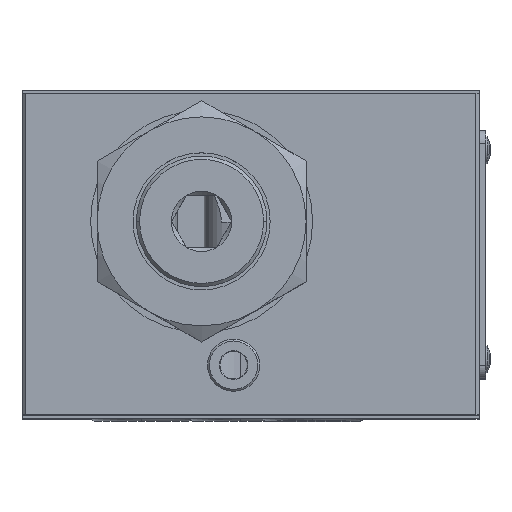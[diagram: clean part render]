
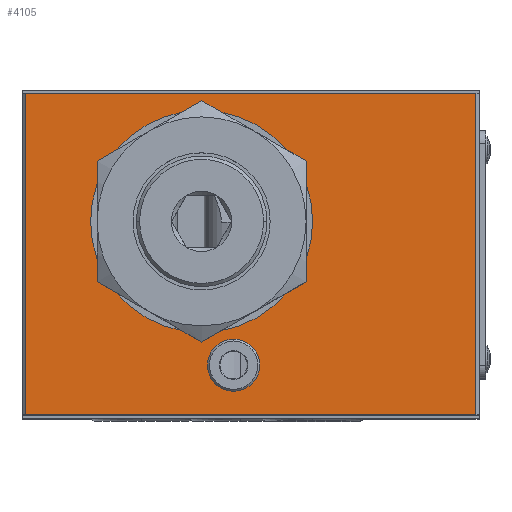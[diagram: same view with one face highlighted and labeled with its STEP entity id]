
A CAD part, top view. The second image highlights one B-rep face of the part: STEP entity #4105.
In plain terms, the highlighted planar face has unit normal (0, 0, 1).
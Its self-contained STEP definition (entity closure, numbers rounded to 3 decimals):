
#1045 = CARTESIAN_POINT ( 'NONE',  ( -2.6, -17., 52.5 ) ) ;
#2438 = LINE ( 'NONE', #15623, #40421 ) ;
#3070 = ORIENTED_EDGE ( 'NONE', *, *, #13128, .T. ) ;
#3890 = CARTESIAN_POINT ( 'NONE',  ( 34.5, 24.6, 52.5 ) ) ;
#4105 = ADVANCED_FACE ( 'NONE', ( #53625, #48515, #36119 ), #27408, .F. ) ;
#4280 = VECTOR ( 'NONE', #59588, 1000. ) ;
#4689 = CIRCLE ( 'NONE', #14132, 4. ) ;
#5444 = ORIENTED_EDGE ( 'NONE', *, *, #17188, .T. ) ;
#5789 = DIRECTION ( 'NONE',  ( 0., 0., -1. ) ) ;
#7117 = EDGE_CURVE ( 'NONE', #36637, #44634, #35683, .T. ) ;
#7924 = VERTEX_POINT ( 'NONE', #58464 ) ;
#8649 = CARTESIAN_POINT ( 'NONE',  ( 35., -25.1, 52.5 ) ) ;
#13128 = EDGE_CURVE ( 'NONE', #7924, #27681, #38955, .T. ) ;
#14132 = AXIS2_PLACEMENT_3D ( 'NONE', #29267, #15453, #20138 ) ;
#14492 = EDGE_CURVE ( 'NONE', #55230, #54223, #22020, .T. ) ;
#14983 = CARTESIAN_POINT ( 'NONE',  ( -7.5, 5., 52.5 ) ) ;
#15453 = DIRECTION ( 'NONE',  ( 0., 0., 1. ) ) ;
#15623 = CARTESIAN_POINT ( 'NONE',  ( 34.5, -25.1, 52.5 ) ) ;
#17188 = EDGE_CURVE ( 'NONE', #54223, #36637, #2438, .T. ) ;
#17669 = ORIENTED_EDGE ( 'NONE', *, *, #7117, .T. ) ;
#18434 = EDGE_CURVE ( 'NONE', #44634, #55230, #34349, .T. ) ;
#19856 = DIRECTION ( 'NONE',  ( 1., 0., 0. ) ) ;
#19896 = VERTEX_POINT ( 'NONE', #54970 ) ;
#20138 = DIRECTION ( 'NONE',  ( 1., 0., 0. ) ) ;
#20556 = CARTESIAN_POINT ( 'NONE',  ( -7.5, 5., 52.5 ) ) ;
#21305 = EDGE_CURVE ( 'NONE', #19896, #50887, #4689, .T. ) ;
#21569 = CIRCLE ( 'NONE', #39707, 17. ) ;
#21974 = VECTOR ( 'NONE', #53867, 1000. ) ;
#22020 = LINE ( 'NONE', #59930, #28446 ) ;
#23895 = DIRECTION ( 'NONE',  ( 0., 0., 1. ) ) ;
#25162 = DIRECTION ( 'NONE',  ( 0., 1., 0. ) ) ;
#26703 = AXIS2_PLACEMENT_3D ( 'NONE', #1045, #23895, #19856 ) ;
#26992 = CARTESIAN_POINT ( 'NONE',  ( 35., 24.6, 52.5 ) ) ;
#27211 = DIRECTION ( 'NONE',  ( -1., 0., 0. ) ) ;
#27408 = PLANE ( 'NONE',  #30150 ) ;
#27681 = VERTEX_POINT ( 'NONE', #49870 ) ;
#28446 = VECTOR ( 'NONE', #45506, 1000. ) ;
#29267 = CARTESIAN_POINT ( 'NONE',  ( -2.6, -17., 52.5 ) ) ;
#29526 = EDGE_LOOP ( 'NONE', ( #36369, #53639 ) ) ;
#30150 = AXIS2_PLACEMENT_3D ( 'NONE', #8649, #45586, #27211 ) ;
#33128 = DIRECTION ( 'NONE',  ( -1., 0., 0. ) ) ;
#34349 = LINE ( 'NONE', #57919, #21974 ) ;
#35076 = ORIENTED_EDGE ( 'NONE', *, *, #18434, .T. ) ;
#35683 = LINE ( 'NONE', #26992, #4280 ) ;
#36119 = FACE_OUTER_BOUND ( 'NONE', #40408, .T. ) ;
#36369 = ORIENTED_EDGE ( 'NONE', *, *, #21305, .F. ) ;
#36637 = VERTEX_POINT ( 'NONE', #3890 ) ;
#37639 = ORIENTED_EDGE ( 'NONE', *, *, #14492, .T. ) ;
#38955 = CIRCLE ( 'NONE', #56333, 17. ) ;
#39263 = DIRECTION ( 'NONE',  ( -1., 0., 0. ) ) ;
#39707 = AXIS2_PLACEMENT_3D ( 'NONE', #20556, #43960, #39263 ) ;
#40408 = EDGE_LOOP ( 'NONE', ( #37639, #5444, #17669, #35076 ) ) ;
#40421 = VECTOR ( 'NONE', #25162, 1000. ) ;
#41337 = CIRCLE ( 'NONE', #26703, 4. ) ;
#43960 = DIRECTION ( 'NONE',  ( 0., 0., -1. ) ) ;
#44634 = VERTEX_POINT ( 'NONE', #59596 ) ;
#45506 = DIRECTION ( 'NONE',  ( 1., 0., 0. ) ) ;
#45586 = DIRECTION ( 'NONE',  ( 0., 0., -1. ) ) ;
#48176 = CARTESIAN_POINT ( 'NONE',  ( -34.5, -24.6, 52.5 ) ) ;
#48515 = FACE_BOUND ( 'NONE', #53321, .T. ) ;
#49816 = CARTESIAN_POINT ( 'NONE',  ( -6.6, -17., 52.5 ) ) ;
#49870 = CARTESIAN_POINT ( 'NONE',  ( -24.5, 5., 52.5 ) ) ;
#50791 = EDGE_CURVE ( 'NONE', #27681, #7924, #21569, .T. ) ;
#50887 = VERTEX_POINT ( 'NONE', #49816 ) ;
#53321 = EDGE_LOOP ( 'NONE', ( #3070, #60234 ) ) ;
#53625 = FACE_BOUND ( 'NONE', #29526, .T. ) ;
#53639 = ORIENTED_EDGE ( 'NONE', *, *, #53935, .F. ) ;
#53867 = DIRECTION ( 'NONE',  ( 0., -1., 0. ) ) ;
#53935 = EDGE_CURVE ( 'NONE', #50887, #19896, #41337, .T. ) ;
#54223 = VERTEX_POINT ( 'NONE', #59532 ) ;
#54970 = CARTESIAN_POINT ( 'NONE',  ( 1.4, -17., 52.5 ) ) ;
#55230 = VERTEX_POINT ( 'NONE', #48176 ) ;
#56333 = AXIS2_PLACEMENT_3D ( 'NONE', #14983, #5789, #33128 ) ;
#57919 = CARTESIAN_POINT ( 'NONE',  ( -34.5, -25.1, 52.5 ) ) ;
#58464 = CARTESIAN_POINT ( 'NONE',  ( 9.5, 5., 52.5 ) ) ;
#59532 = CARTESIAN_POINT ( 'NONE',  ( 34.5, -24.6, 52.5 ) ) ;
#59588 = DIRECTION ( 'NONE',  ( -1., 0., 0. ) ) ;
#59596 = CARTESIAN_POINT ( 'NONE',  ( -34.5, 24.6, 52.5 ) ) ;
#59930 = CARTESIAN_POINT ( 'NONE',  ( -35., -24.6, 52.5 ) ) ;
#60234 = ORIENTED_EDGE ( 'NONE', *, *, #50791, .T. ) ;
